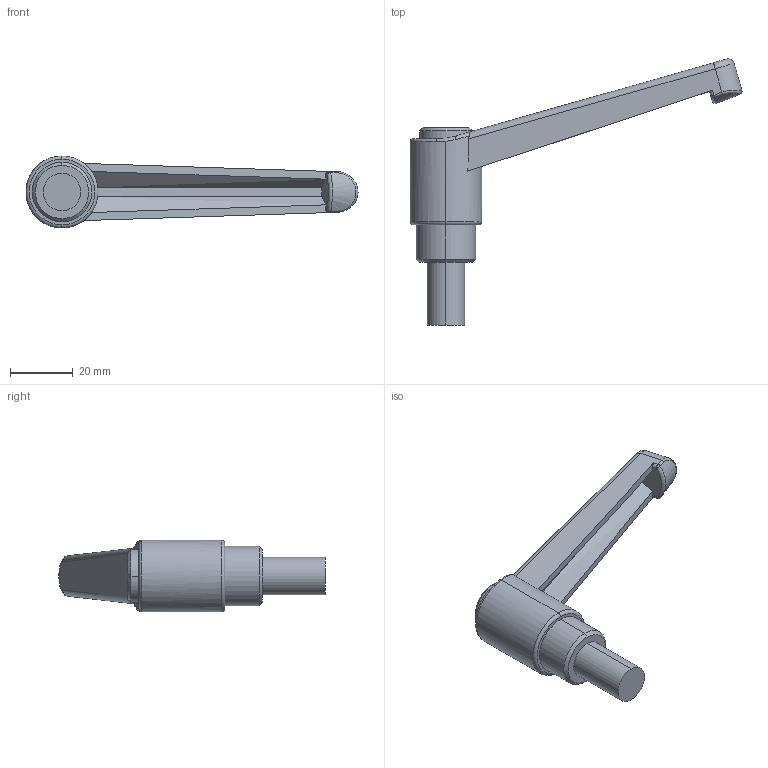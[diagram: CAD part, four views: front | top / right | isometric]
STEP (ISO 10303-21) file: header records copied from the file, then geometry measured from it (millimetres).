
FILE_DESCRIPTION (( 'STEP AP203' ), '1' );
FILE_NAME ('AS-406-92-M12.STEP', '2015-11-23T07:12:36', ( '' ), ( '' ), 'SwSTEP 2.0', 'SolidWorks 2014', '' );
FILE_SCHEMA (( 'CONFIG_CONTROL_DESIGN' ));
Length unit declared in the file: millimetre
Products named in the file (1): AS-406-92-M12
Bounding box: 106.06 x 85.02 x 23 mm (x, y, z)
Volume: 28568.6 mm3; surface area: 9561.2 mm2
Topology: 1 solids, 1 shells, 57 faces, 134 edges, 82 vertices
Faces by surface type: cylinder 17, plane 17, bspline 11, torus 4, cone 4, sphere 4
Entity records: 2159 total; most frequent: CARTESIAN_POINT 866, ORIENTED_EDGE 268, DIRECTION 241, EDGE_CURVE 134, AXIS2_PLACEMENT_3D 101, VERTEX_POINT 82, EDGE_LOOP 60, FACE_OUTER_BOUND 57
